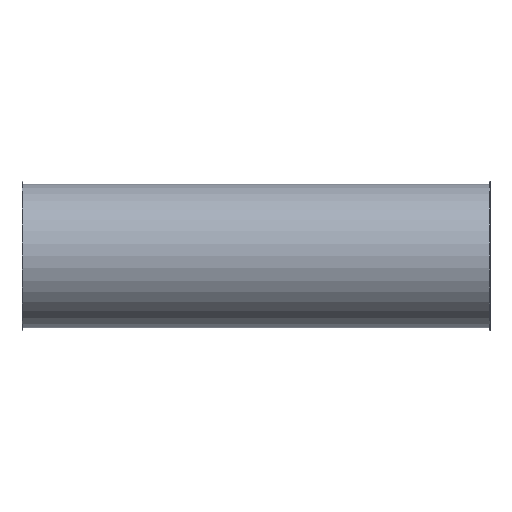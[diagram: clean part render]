
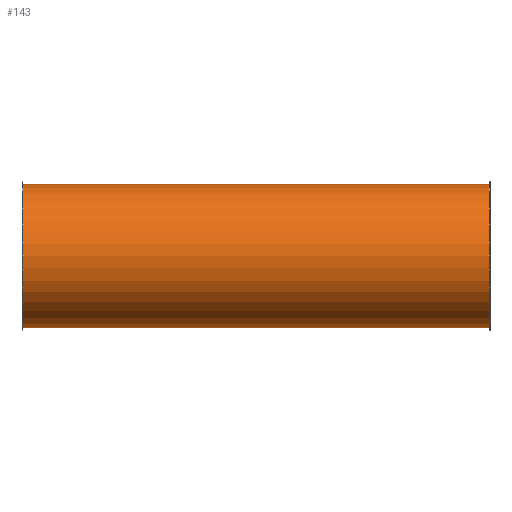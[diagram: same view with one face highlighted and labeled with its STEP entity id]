
A CAD part, front view. The second image highlights one B-rep face of the part: STEP entity #143.
In plain terms, the highlighted cylindrical face has radius 151.5 mm (diameter 303 mm), a full revolution.
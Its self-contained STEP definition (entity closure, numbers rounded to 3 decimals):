
#112=CARTESIAN_POINT('',(952.119,2.817,0.0));
#113=VERTEX_POINT('',#112);
#114=CARTESIAN_POINT('',(952.119,154.317,0.0));
#115=DIRECTION('',(-1.0,0.0,0.0));
#116=DIRECTION('',(0.0,-1.0,0.0));
#117=AXIS2_PLACEMENT_3D('',#114,#115,#116);
#118=CIRCLE('',#117,151.5);
#119=EDGE_CURVE('',#113,#113,#118,.T.);
#124=CARTESIAN_POINT('',(461.119,154.317,0.0));
#125=DIRECTION('',(-1.0,0.,0.0));
#126=DIRECTION('',(0.0,-1.0,0.0));
#127=AXIS2_PLACEMENT_3D('',#124,#125,#126);
#128=CYLINDRICAL_SURFACE('',#127,151.5);
#129=CARTESIAN_POINT('',(-29.881,2.817,0.0));
#130=VERTEX_POINT('',#129);
#131=CARTESIAN_POINT('',(-29.881,154.317,0.0));
#132=DIRECTION('',(-1.0,0.0,0.0));
#133=DIRECTION('',(0.0,-1.0,0.0));
#134=AXIS2_PLACEMENT_3D('',#131,#132,#133);
#135=CIRCLE('',#134,151.5);
#136=EDGE_CURVE('',#130,#130,#135,.T.);
#137=ORIENTED_EDGE('',*,*,#136,.F.);
#138=EDGE_LOOP('',(#137));
#139=FACE_OUTER_BOUND('',#138,.T.);
#140=ORIENTED_EDGE('',*,*,#119,.T.);
#141=EDGE_LOOP('',(#140));
#142=FACE_BOUND('',#141,.T.);
#143=ADVANCED_FACE('',(#139,#142),#128,.T.);
